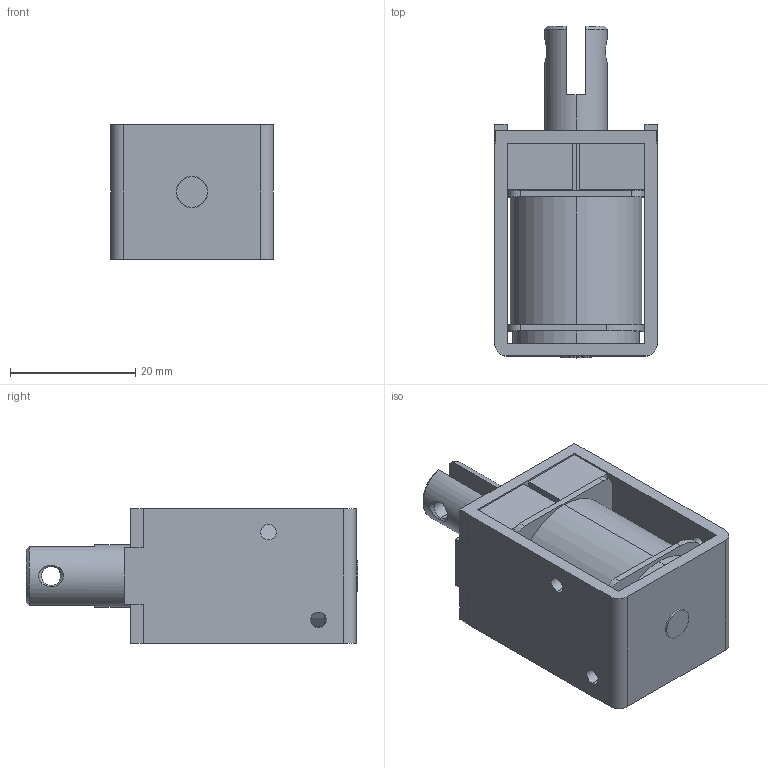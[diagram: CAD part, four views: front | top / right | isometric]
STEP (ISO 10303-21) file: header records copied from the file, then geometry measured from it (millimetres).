
FILE_DESCRIPTION (( 'STEP AP203' ), '1' );
FILE_NAME ('w_cd1037.STEP', '2014-07-25T04:35:18', ( 'jiba' ), ( 'Hewlett-Packard Company' ), 'SwSTEP 2.0', 'SolidWorks 2014', '' );
FILE_SCHEMA (( 'CONFIG_CONTROL_DESIGN' ));
Length unit declared in the file: millimetre
Products named in the file (3): Part11^w_cd1037; w_21037039; w_cd1037
Assembly tree (2 placements, depth 2):
  w_cd1037
    Part11^w_cd1037
    w_21037039
Bounding box: 26 x 53 x 21.5 mm (x, y, z)
Volume: 17719.9 mm3; surface area: 12088.4 mm2
Topology: 2 solids, 2 shells, 117 faces, 308 edges, 204 vertices
Faces by surface type: plane 66, cylinder 45, cone 6
Entity records: 4059 total; most frequent: CARTESIAN_POINT 738, DIRECTION 648, ORIENTED_EDGE 616, EDGE_CURVE 308, AXIS2_PLACEMENT_3D 226, VERTEX_POINT 204, LINE 196, VECTOR 196
